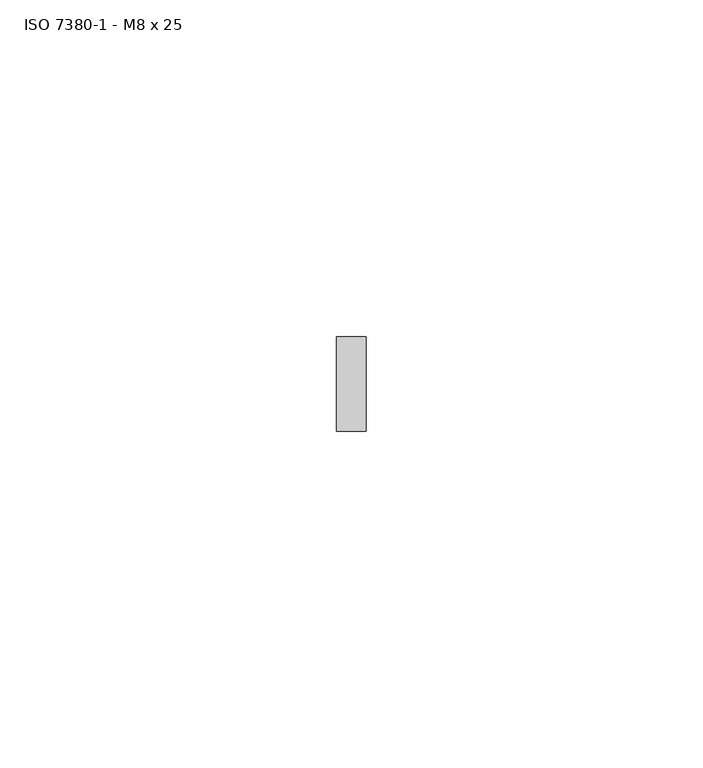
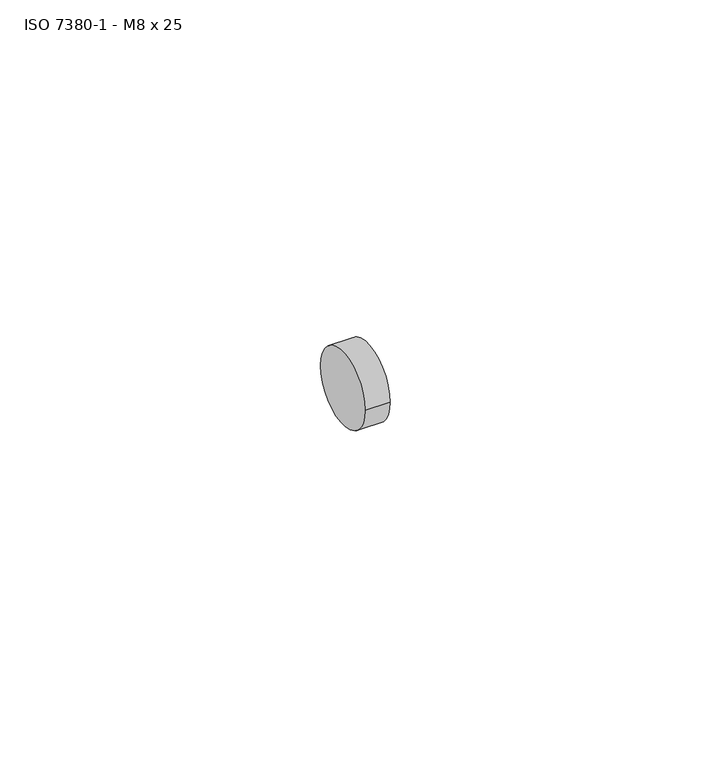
"""IFC4 building model written with IfcOpenShell, lengths in millimetres: proxy geometry, ISO 7380-1 - M8 x 25."""

from ifc_helpers import new_model, si_unit, point, frame, origin, origin_2d, place, context, project, spatial, circle_curve, trimmed, segment, composite_curve, outline, extrude, source, transform, mapped, element, save


def iso_7380_1_m8_x_25_17dd2121(model_context):
    return source(origin(), model_context, "Body", "SweptSolid", [
        extrude(outline(composite_curve([segment(trimmed(circle_curve(origin_2d(), 7.0), [point((-7.0, 0.0))], [point((7.0, 0.0))], False, "CARTESIAN"), True, "CONTINUOUS"), segment(trimmed(circle_curve(origin_2d(), 7.0), [point((7.0, 0.0))], [point((-7.0, 0.0))], False, "CARTESIAN"), True, "CONTINUOUS")], self_intersect=False)), frame((-4.4, 0.0, 0.0), z_axis=(1.0, 0.0, 0.0), x_axis=(0.0, 1.0, 0.0)), (0.0, 0.0, 1.0), 4.4),
    ])


if __name__ == "__main__":
    model = new_model("IFC4")
    model_context = context("Model", 3, world=origin())
    ifc_project = project(units=[si_unit("LENGTHUNIT", "METRE", prefix="MILLI")], contexts=[model_context])
    site = spatial("IfcSite", under=ifc_project)
    building = spatial("IfcBuilding", under=site)
    placement = place(None, origin())
    iso_7380_1_m8_x_25_shape = iso_7380_1_m8_x_25_17dd2121(model_context)
    element("IfcBuildingElementProxy", 1, Name="ISO 7380-1 - M8 x 25", ObjectType="ISO 7380-1 - M8 x 25", at=placement, inside=building, context=model_context, shape_type="MappedRepresentation", body=[
        mapped(iso_7380_1_m8_x_25_shape, transform((0.0, 0.0, 0.0), x_axis=(1.0, 0.0, 0.0), y_axis=(0.0, 1.0, 0.0), z_axis=(0.0, 0.0, 1.0))),
    ])
    save(model, "model.ifc")
